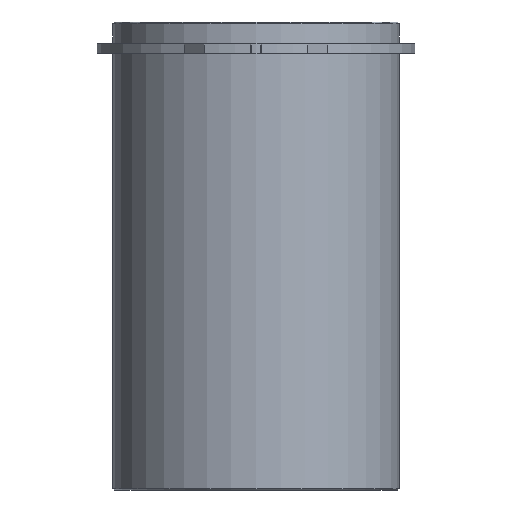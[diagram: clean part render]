
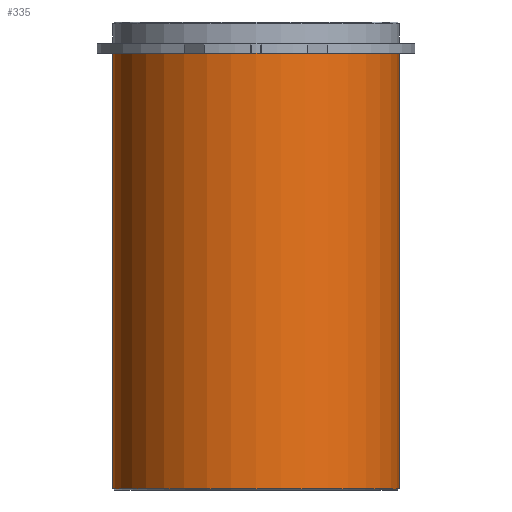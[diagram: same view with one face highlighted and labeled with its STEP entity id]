
A CAD part, front view. The second image highlights one B-rep face of the part: STEP entity #335.
In plain terms, the highlighted cylindrical face has radius 30.625 mm (diameter 61.25 mm), a partial arc.
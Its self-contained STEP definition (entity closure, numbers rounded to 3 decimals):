
#294=CARTESIAN_POINT('',(0.0,0.,-46.5));
#295=DIRECTION('',(0.0,0.,1.0));
#296=DIRECTION('',(1.0,0.0,0.0));
#297=AXIS2_PLACEMENT_3D('',#294,#295,#296);
#298=CYLINDRICAL_SURFACE('',#297,30.625);
#299=CARTESIAN_POINT('',(30.625,0.0,0.0));
#300=VERTEX_POINT('',#299);
#301=CARTESIAN_POINT('',(30.625,0.,-93.0));
#302=VERTEX_POINT('',#301);
#303=CARTESIAN_POINT('',(30.625,0.0,0.0));
#304=DIRECTION('',(0.0,0.0,-1.0));
#305=VECTOR('',#304,93.0);
#306=LINE('',#303,#305);
#307=EDGE_CURVE('',#300,#302,#306,.T.);
#308=ORIENTED_EDGE('',*,*,#307,.F.);
#309=CARTESIAN_POINT('',(-30.625,0.,0.0));
#310=VERTEX_POINT('',#309);
#311=CARTESIAN_POINT('',(0.0,0.0,0.0));
#312=DIRECTION('',(0.0,0.0,1.0));
#313=DIRECTION('',(1.0,0.0,0.0));
#314=AXIS2_PLACEMENT_3D('',#311,#312,#313);
#315=CIRCLE('',#314,30.625);
#316=EDGE_CURVE('',#310,#300,#315,.T.);
#317=ORIENTED_EDGE('',*,*,#316,.F.);
#318=CARTESIAN_POINT('',(-30.625,0.,-93.0));
#319=VERTEX_POINT('',#318);
#320=CARTESIAN_POINT('',(-30.625,0.,0.0));
#321=DIRECTION('',(0.0,0.0,-1.0));
#322=VECTOR('',#321,93.0);
#323=LINE('',#320,#322);
#324=EDGE_CURVE('',#310,#319,#323,.T.);
#325=ORIENTED_EDGE('',*,*,#324,.T.);
#326=CARTESIAN_POINT('',(0.0,0.,-93.0));
#327=DIRECTION('',(0.0,0.0,1.0));
#328=DIRECTION('',(1.0,0.0,0.0));
#329=AXIS2_PLACEMENT_3D('',#326,#327,#328);
#330=CIRCLE('',#329,30.625);
#331=EDGE_CURVE('',#319,#302,#330,.T.);
#332=ORIENTED_EDGE('',*,*,#331,.T.);
#333=EDGE_LOOP('',(#308,#317,#325,#332));
#334=FACE_OUTER_BOUND('',#333,.T.);
#335=ADVANCED_FACE('',(#334),#298,.T.);
